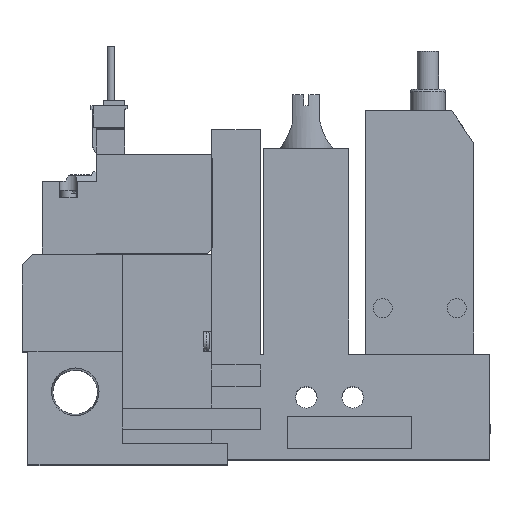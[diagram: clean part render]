
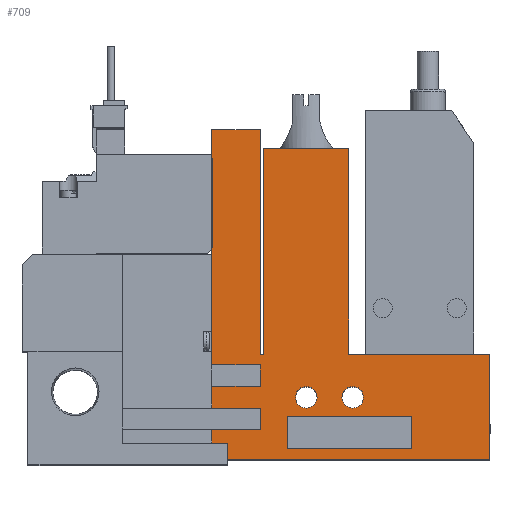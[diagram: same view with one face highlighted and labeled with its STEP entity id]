
A CAD part, top view. The second image highlights one B-rep face of the part: STEP entity #709.
In plain terms, the highlighted planar face has unit normal (0, 0, 1).
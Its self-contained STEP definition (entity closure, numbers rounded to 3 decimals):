
#709=ADVANCED_FACE('',(#1451,#1452,#1453,#1454),#1455,.T.);
#1451=FACE_OUTER_BOUND('',#2439,.T.);
#1452=FACE_BOUND('',#2440,.T.);
#1453=FACE_BOUND('',#2441,.T.);
#1454=FACE_BOUND('',#2442,.T.);
#1455=PLANE('',#2443);
#2439=EDGE_LOOP('',(#5088,#5089,#5090,#5091,#5092,#5093,#5094,#5095,#5096,#5097,#5098,#5099,#5100,#5101,#5102,#5103,#5104,#5105));
#2440=EDGE_LOOP('',(#5106,#5107,#5108,#5109));
#2441=EDGE_LOOP('',(#5110));
#2442=EDGE_LOOP('',(#5111));
#2443=AXIS2_PLACEMENT_3D('',#5112,#5113,#5114);
#5088=ORIENTED_EDGE('',*,*,#6950,.T.);
#5089=ORIENTED_EDGE('',*,*,#6951,.T.);
#5090=ORIENTED_EDGE('',*,*,#6895,.T.);
#5091=ORIENTED_EDGE('',*,*,#6952,.T.);
#5092=ORIENTED_EDGE('',*,*,#6953,.T.);
#5093=ORIENTED_EDGE('',*,*,#6954,.T.);
#5094=ORIENTED_EDGE('',*,*,#6955,.T.);
#5095=ORIENTED_EDGE('',*,*,#6956,.T.);
#5096=ORIENTED_EDGE('',*,*,#6957,.T.);
#5097=ORIENTED_EDGE('',*,*,#6958,.T.);
#5098=ORIENTED_EDGE('',*,*,#6959,.T.);
#5099=ORIENTED_EDGE('',*,*,#6960,.T.);
#5100=ORIENTED_EDGE('',*,*,#6961,.T.);
#5101=ORIENTED_EDGE('',*,*,#6962,.T.);
#5102=ORIENTED_EDGE('',*,*,#6963,.T.);
#5103=ORIENTED_EDGE('',*,*,#6964,.T.);
#5104=ORIENTED_EDGE('',*,*,#6965,.T.);
#5105=ORIENTED_EDGE('',*,*,#6966,.T.);
#5106=ORIENTED_EDGE('',*,*,#6967,.T.);
#5107=ORIENTED_EDGE('',*,*,#6968,.T.);
#5108=ORIENTED_EDGE('',*,*,#6942,.T.);
#5109=ORIENTED_EDGE('',*,*,#6969,.T.);
#5110=ORIENTED_EDGE('',*,*,#6970,.T.);
#5111=ORIENTED_EDGE('',*,*,#6971,.T.);
#5112=CARTESIAN_POINT('',(0.0,0.0,10.0));
#5113=DIRECTION('',(0.0,0.0,1.0));
#5114=DIRECTION('',(1.0,0.0,0.0));
#6895=EDGE_CURVE('',#8414,#8419,#8421,.T.);
#6942=EDGE_CURVE('',#8497,#8502,#8504,.T.);
#6950=EDGE_CURVE('',#8517,#8518,#8519,.T.);
#6951=EDGE_CURVE('',#8518,#8414,#8520,.T.);
#6952=EDGE_CURVE('',#8419,#8521,#8522,.T.);
#6953=EDGE_CURVE('',#8521,#8523,#8524,.T.);
#6954=EDGE_CURVE('',#8523,#8525,#8526,.T.);
#6955=EDGE_CURVE('',#8525,#8527,#8528,.T.);
#6956=EDGE_CURVE('',#8527,#8529,#8530,.T.);
#6957=EDGE_CURVE('',#8529,#8531,#8532,.T.);
#6958=EDGE_CURVE('',#8531,#8533,#8534,.T.);
#6959=EDGE_CURVE('',#8533,#8535,#8536,.T.);
#6960=EDGE_CURVE('',#8535,#8537,#8538,.T.);
#6961=EDGE_CURVE('',#8537,#8539,#8540,.T.);
#6962=EDGE_CURVE('',#8539,#8541,#8542,.T.);
#6963=EDGE_CURVE('',#8541,#8543,#8544,.T.);
#6964=EDGE_CURVE('',#8543,#8545,#8546,.T.);
#6965=EDGE_CURVE('',#8545,#8547,#8548,.T.);
#6966=EDGE_CURVE('',#8547,#8517,#8549,.T.);
#6967=EDGE_CURVE('',#8550,#8551,#8552,.T.);
#6968=EDGE_CURVE('',#8551,#8497,#8553,.T.);
#6969=EDGE_CURVE('',#8502,#8550,#8554,.T.);
#6970=EDGE_CURVE('',#8555,#8555,#8556,.T.);
#6971=EDGE_CURVE('',#8557,#8557,#8558,.T.);
#8414=VERTEX_POINT('',#10840);
#8419=VERTEX_POINT('',#10847);
#8421=LINE('',#10850,#10851);
#8497=VERTEX_POINT('',#10968);
#8502=VERTEX_POINT('',#10975);
#8504=LINE('',#10978,#10979);
#8517=VERTEX_POINT('',#10998);
#8518=VERTEX_POINT('',#10999);
#8519=LINE('',#11000,#11001);
#8520=LINE('',#11002,#11003);
#8521=VERTEX_POINT('',#11004);
#8522=LINE('',#11005,#11006);
#8523=VERTEX_POINT('',#11007);
#8524=LINE('',#11008,#11009);
#8525=VERTEX_POINT('',#11010);
#8526=LINE('',#11011,#11012);
#8527=VERTEX_POINT('',#11013);
#8528=LINE('',#11014,#11015);
#8529=VERTEX_POINT('',#11016);
#8530=LINE('',#11017,#11018);
#8531=VERTEX_POINT('',#11019);
#8532=LINE('',#11020,#11021);
#8533=VERTEX_POINT('',#11022);
#8534=LINE('',#11023,#11024);
#8535=VERTEX_POINT('',#11025);
#8536=LINE('',#11026,#11027);
#8537=VERTEX_POINT('',#11028);
#8538=LINE('',#11029,#11030);
#8539=VERTEX_POINT('',#11031);
#8540=LINE('',#11032,#11033);
#8541=VERTEX_POINT('',#11034);
#8542=LINE('',#11035,#11036);
#8543=VERTEX_POINT('',#11037);
#8544=LINE('',#11038,#11039);
#8545=VERTEX_POINT('',#11040);
#8546=LINE('',#11041,#11042);
#8547=VERTEX_POINT('',#11043);
#8548=LINE('',#11044,#11045);
#8549=LINE('',#11046,#11047);
#8550=VERTEX_POINT('',#11048);
#8551=VERTEX_POINT('',#11049);
#8552=LINE('',#11050,#11051);
#8553=LINE('',#11052,#11053);
#8554=LINE('',#11054,#11055);
#8555=VERTEX_POINT('',#11056);
#8556=CIRCLE('',#11057,2.0);
#8557=VERTEX_POINT('',#11058);
#8558=CIRCLE('',#11059,2.0);
#10840=CARTESIAN_POINT('',(44.1,17.5,10.0));
#10847=CARTESIAN_POINT('',(44.1,13.5,10.0));
#10850=CARTESIAN_POINT('',(44.1,0.0,10.0));
#10851=VECTOR('',#12726,1.0);
#10968=CARTESIAN_POINT('',(72.1,8.0,10.0));
#10975=CARTESIAN_POINT('',(72.1,2.0,10.0));
#10978=CARTESIAN_POINT('',(72.1,0.0,10.0));
#10979=VECTOR('',#12777,1.0);
#10998=CARTESIAN_POINT('',(35.1,61.0,10.0));
#10999=CARTESIAN_POINT('',(35.1,17.5,10.0));
#11000=CARTESIAN_POINT('',(35.1,61.0,10.0));
#11001=VECTOR('',#12787,1.0);
#11002=CARTESIAN_POINT('',(0.0,17.5,10.0));
#11003=VECTOR('',#12788,1.0);
#11004=CARTESIAN_POINT('',(35.1,13.5,10.0));
#11005=CARTESIAN_POINT('',(0.0,13.5,10.0));
#11006=VECTOR('',#12789,1.0);
#11007=CARTESIAN_POINT('',(35.1,9.5,10.0));
#11008=CARTESIAN_POINT('',(35.1,0.0,10.0));
#11009=VECTOR('',#12790,1.0);
#11010=CARTESIAN_POINT('',(44.1,9.5,10.0));
#11011=CARTESIAN_POINT('',(0.0,9.5,10.0));
#11012=VECTOR('',#12791,1.0);
#11013=CARTESIAN_POINT('',(44.1,5.5,10.0));
#11014=CARTESIAN_POINT('',(44.1,0.0,10.0));
#11015=VECTOR('',#12792,1.0);
#11016=CARTESIAN_POINT('',(35.1,5.5,10.0));
#11017=CARTESIAN_POINT('',(0.0,5.5,10.0));
#11018=VECTOR('',#12793,1.0);
#11019=CARTESIAN_POINT('',(35.1,0.0,10.0));
#11020=CARTESIAN_POINT('',(35.1,0.0,10.0));
#11021=VECTOR('',#12794,1.0);
#11022=CARTESIAN_POINT('',(86.6,0.0,10.0));
#11023=CARTESIAN_POINT('',(18.6,0.0,10.0));
#11024=VECTOR('',#12795,1.0);
#11025=CARTESIAN_POINT('',(86.6,19.5,10.0));
#11026=CARTESIAN_POINT('',(86.6,0.0,10.0));
#11027=VECTOR('',#12796,1.0);
#11028=CARTESIAN_POINT('',(60.45,19.5,10.0));
#11029=CARTESIAN_POINT('',(86.6,19.5,10.0));
#11030=VECTOR('',#12797,1.0);
#11031=CARTESIAN_POINT('',(60.45,57.5,10.0));
#11032=CARTESIAN_POINT('',(60.45,19.5,10.0));
#11033=VECTOR('',#12798,1.0);
#11034=CARTESIAN_POINT('',(44.75,57.5,10.0));
#11035=CARTESIAN_POINT('',(60.45,57.5,10.0));
#11036=VECTOR('',#12799,1.0);
#11037=CARTESIAN_POINT('',(44.75,19.5,10.0));
#11038=CARTESIAN_POINT('',(44.75,57.5,10.0));
#11039=VECTOR('',#12800,1.0);
#11040=CARTESIAN_POINT('',(44.1,19.5,10.0));
#11041=CARTESIAN_POINT('',(44.75,19.5,10.0));
#11042=VECTOR('',#12801,1.0);
#11043=CARTESIAN_POINT('',(44.1,61.0,10.0));
#11044=CARTESIAN_POINT('',(44.1,19.5,10.0));
#11045=VECTOR('',#12802,1.0);
#11046=CARTESIAN_POINT('',(44.1,61.0,10.0));
#11047=VECTOR('',#12803,1.0);
#11048=CARTESIAN_POINT('',(49.1,2.0,10.0));
#11049=CARTESIAN_POINT('',(49.1,8.0,10.0));
#11050=CARTESIAN_POINT('',(49.1,0.0,10.0));
#11051=VECTOR('',#12804,1.0);
#11052=CARTESIAN_POINT('',(0.0,8.0,10.0));
#11053=VECTOR('',#12805,1.0);
#11054=CARTESIAN_POINT('',(0.0,2.0,10.0));
#11055=VECTOR('',#12806,1.0);
#11056=CARTESIAN_POINT('',(54.6,11.5,10.0));
#11057=AXIS2_PLACEMENT_3D('',#12807,#12808,#12809);
#11058=CARTESIAN_POINT('',(63.2,11.5,10.0));
#11059=AXIS2_PLACEMENT_3D('',#12810,#12811,#12812);
#12726=DIRECTION('',(0.0,-1.0,0.0));
#12777=DIRECTION('',(0.0,-1.0,0.0));
#12787=DIRECTION('',(0.0,-1.0,0.0));
#12788=DIRECTION('',(1.0,0.0,0.0));
#12789=DIRECTION('',(-1.0,0.0,0.0));
#12790=DIRECTION('',(0.0,-1.0,0.0));
#12791=DIRECTION('',(1.0,0.0,0.0));
#12792=DIRECTION('',(0.0,-1.0,0.0));
#12793=DIRECTION('',(-1.0,0.0,0.0));
#12794=DIRECTION('',(0.0,-1.0,0.0));
#12795=DIRECTION('',(1.0,0.0,0.0));
#12796=DIRECTION('',(0.0,1.0,0.0));
#12797=DIRECTION('',(-1.0,0.0,0.0));
#12798=DIRECTION('',(0.0,1.0,0.0));
#12799=DIRECTION('',(-1.0,0.0,0.0));
#12800=DIRECTION('',(0.0,-1.0,0.0));
#12801=DIRECTION('',(-1.0,0.0,0.0));
#12802=DIRECTION('',(0.0,1.0,0.0));
#12803=DIRECTION('',(-1.0,0.0,0.0));
#12804=DIRECTION('',(0.0,1.0,0.0));
#12805=DIRECTION('',(1.0,0.0,0.0));
#12806=DIRECTION('',(-1.0,0.0,0.0));
#12807=CARTESIAN_POINT('',(52.6,11.5,10.0));
#12808=DIRECTION('',(0.0,0.0,-1.0));
#12809=DIRECTION('',(1.0,0.0,0.0));
#12810=CARTESIAN_POINT('',(61.2,11.5,10.0));
#12811=DIRECTION('',(0.0,0.0,-1.0));
#12812=DIRECTION('',(1.0,0.0,0.0));
